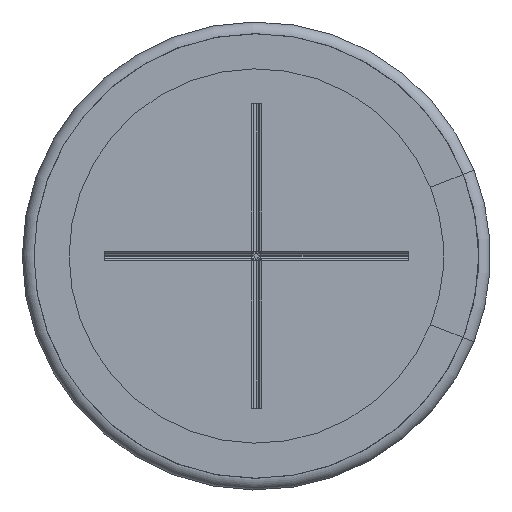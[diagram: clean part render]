
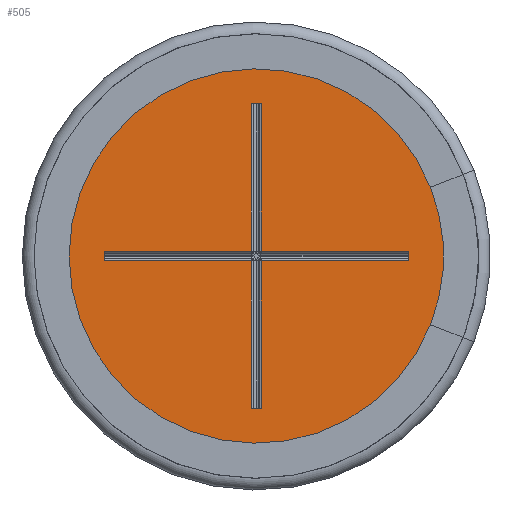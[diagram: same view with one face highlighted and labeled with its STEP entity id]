
A CAD part, front view. The second image highlights one B-rep face of the part: STEP entity #505.
In plain terms, the highlighted planar face has unit normal (0, -1, 0).
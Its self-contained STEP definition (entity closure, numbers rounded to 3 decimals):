
#88=FACE_BOUND('',#720,.T.);
#89=FACE_BOUND('',#721,.T.);
#505=ADVANCED_FACE('',(#88,#89),#589,.T.);
#589=PLANE('',#2054);
#720=EDGE_LOOP('',(#1124));
#721=EDGE_LOOP('',(#1125,#1126,#1127,#1128,#1129,#1130,#1131,#1132,#1133,
#1134,#1135,#1136));
#832=LINE('',#2916,#928);
#833=LINE('',#2919,#929);
#834=LINE('',#2921,#930);
#835=LINE('',#2923,#931);
#836=LINE('',#2925,#932);
#837=LINE('',#2927,#933);
#838=LINE('',#2929,#934);
#839=LINE('',#2931,#935);
#840=LINE('',#2933,#936);
#841=LINE('',#2935,#937);
#842=LINE('',#2937,#938);
#843=LINE('',#2939,#939);
#928=VECTOR('',#2373,1.);
#929=VECTOR('',#2374,1.);
#930=VECTOR('',#2375,1.);
#931=VECTOR('',#2376,1.);
#932=VECTOR('',#2377,1.);
#933=VECTOR('',#2378,1.);
#934=VECTOR('',#2379,1.);
#935=VECTOR('',#2380,1.);
#936=VECTOR('',#2381,1.);
#937=VECTOR('',#2382,1.);
#938=VECTOR('',#2383,1.);
#939=VECTOR('',#2384,1.);
#1124=ORIENTED_EDGE('',*,*,#1686,.T.);
#1125=ORIENTED_EDGE('',*,*,#1687,.F.);
#1126=ORIENTED_EDGE('',*,*,#1688,.T.);
#1127=ORIENTED_EDGE('',*,*,#1689,.T.);
#1128=ORIENTED_EDGE('',*,*,#1690,.F.);
#1129=ORIENTED_EDGE('',*,*,#1691,.T.);
#1130=ORIENTED_EDGE('',*,*,#1692,.T.);
#1131=ORIENTED_EDGE('',*,*,#1693,.T.);
#1132=ORIENTED_EDGE('',*,*,#1694,.T.);
#1133=ORIENTED_EDGE('',*,*,#1695,.T.);
#1134=ORIENTED_EDGE('',*,*,#1696,.T.);
#1135=ORIENTED_EDGE('',*,*,#1697,.T.);
#1136=ORIENTED_EDGE('',*,*,#1698,.T.);
#1512=VERTEX_POINT('',#2915);
#1513=VERTEX_POINT('',#2917);
#1514=VERTEX_POINT('',#2918);
#1515=VERTEX_POINT('',#2920);
#1516=VERTEX_POINT('',#2922);
#1517=VERTEX_POINT('',#2924);
#1518=VERTEX_POINT('',#2926);
#1519=VERTEX_POINT('',#2928);
#1520=VERTEX_POINT('',#2930);
#1521=VERTEX_POINT('',#2932);
#1522=VERTEX_POINT('',#2934);
#1523=VERTEX_POINT('',#2936);
#1524=VERTEX_POINT('',#2938);
#1686=EDGE_CURVE('',#1512,#1512,#1900,.T.);
#1687=EDGE_CURVE('',#1513,#1514,#832,.T.);
#1688=EDGE_CURVE('',#1513,#1515,#833,.T.);
#1689=EDGE_CURVE('',#1515,#1516,#834,.T.);
#1690=EDGE_CURVE('',#1517,#1516,#835,.T.);
#1691=EDGE_CURVE('',#1517,#1518,#836,.T.);
#1692=EDGE_CURVE('',#1518,#1519,#837,.T.);
#1693=EDGE_CURVE('',#1519,#1520,#838,.T.);
#1694=EDGE_CURVE('',#1520,#1521,#839,.T.);
#1695=EDGE_CURVE('',#1521,#1522,#840,.T.);
#1696=EDGE_CURVE('',#1522,#1523,#841,.T.);
#1697=EDGE_CURVE('',#1523,#1524,#842,.T.);
#1698=EDGE_CURVE('',#1524,#1514,#843,.T.);
#1900=CIRCLE('',#2053,9.5);
#2053=AXIS2_PLACEMENT_3D('',#2914,#2371,#2372);
#2054=AXIS2_PLACEMENT_3D('',#2940,#2385,#2386);
#2371=DIRECTION('',(0.,-1.,0.));
#2372=DIRECTION('',(0.,0.,-1.));
#2373=DIRECTION('',(-1.,0.,0.));
#2374=DIRECTION('',(0.,0.,-1.));
#2375=DIRECTION('',(1.,0.,0.));
#2376=DIRECTION('',(0.,0.,1.));
#2377=DIRECTION('',(-1.,0.,0.));
#2378=DIRECTION('',(0.,0.,-1.));
#2379=DIRECTION('',(-1.,0.,0.));
#2380=DIRECTION('',(0.,0.,1.));
#2381=DIRECTION('',(-1.,0.,0.));
#2382=DIRECTION('',(0.,0.,1.));
#2383=DIRECTION('',(1.,0.,0.));
#2384=DIRECTION('',(0.,0.,1.));
#2385=DIRECTION('',(0.,-1.,0.));
#2386=DIRECTION('',(0.,0.,-1.));
#2914=CARTESIAN_POINT('',(0.,0.1,0.));
#2915=CARTESIAN_POINT('',(0.,0.1,-9.5));
#2916=CARTESIAN_POINT('',(0.15,0.1,6.5));
#2917=CARTESIAN_POINT('',(0.212,0.1,6.5));
#2918=CARTESIAN_POINT('',(-0.212,0.1,6.5));
#2919=CARTESIAN_POINT('',(0.212,0.1,0.15));
#2920=CARTESIAN_POINT('',(0.212,0.1,0.212));
#2921=CARTESIAN_POINT('',(6.5,0.1,0.212));
#2922=CARTESIAN_POINT('',(6.5,0.1,0.212));
#2923=CARTESIAN_POINT('',(6.5,0.1,-0.15));
#2924=CARTESIAN_POINT('',(6.5,0.1,-0.212));
#2925=CARTESIAN_POINT('',(0.15,0.1,-0.212));
#2926=CARTESIAN_POINT('',(0.212,0.1,-0.212));
#2927=CARTESIAN_POINT('',(0.212,0.1,-6.5));
#2928=CARTESIAN_POINT('',(0.212,0.1,-6.5));
#2929=CARTESIAN_POINT('',(0.15,0.1,-6.5));
#2930=CARTESIAN_POINT('',(-0.212,0.1,-6.5));
#2931=CARTESIAN_POINT('',(-0.212,0.1,-0.15));
#2932=CARTESIAN_POINT('',(-0.212,0.1,-0.212));
#2933=CARTESIAN_POINT('',(-6.5,0.1,-0.212));
#2934=CARTESIAN_POINT('',(-6.5,0.1,-0.212));
#2935=CARTESIAN_POINT('',(-6.5,0.1,-0.15));
#2936=CARTESIAN_POINT('',(-6.5,0.1,0.212));
#2937=CARTESIAN_POINT('',(-0.15,0.1,0.212));
#2938=CARTESIAN_POINT('',(-0.212,0.1,0.212));
#2939=CARTESIAN_POINT('',(-0.212,0.1,6.5));
#2940=CARTESIAN_POINT('',(0.,0.1,0.));
